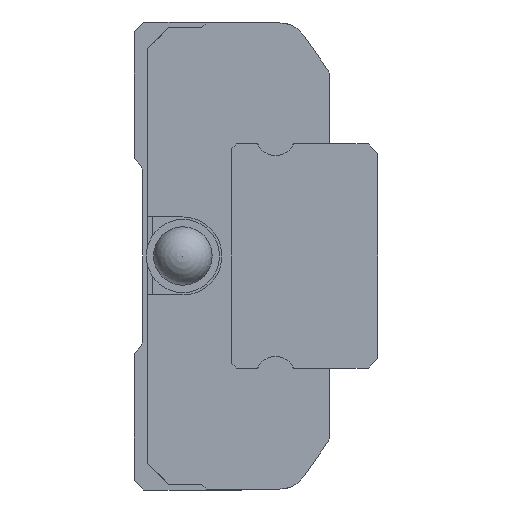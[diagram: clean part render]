
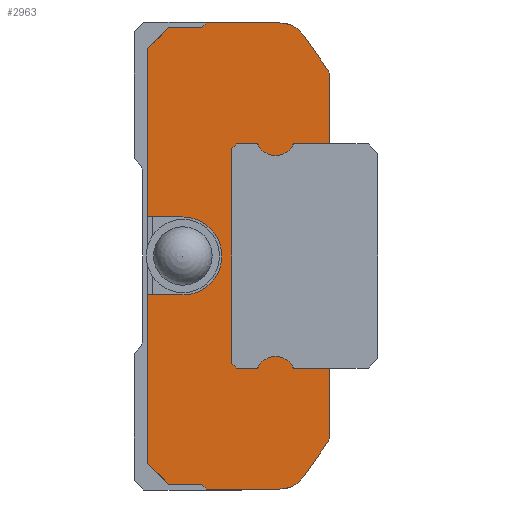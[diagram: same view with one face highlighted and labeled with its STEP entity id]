
A CAD part, left-side view. The second image highlights one B-rep face of the part: STEP entity #2963.
In plain terms, the highlighted planar face has unit normal (-1, 0, 0).
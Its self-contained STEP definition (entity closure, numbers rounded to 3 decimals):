
#81=CIRCLE('',#3203,4.);
#82=CIRCLE('',#3204,3.);
#83=CIRCLE('',#3205,1.);
#84=CIRCLE('',#3206,0.15);
#85=CIRCLE('',#3207,2.);
#86=CIRCLE('',#3208,0.15);
#87=CIRCLE('',#3209,0.15);
#88=CIRCLE('',#3210,2.);
#89=CIRCLE('',#3211,0.15);
#90=CIRCLE('',#3212,1.);
#91=CIRCLE('',#3213,3.);
#324=ORIENTED_EDGE('',*,*,#1100,.T.);
#325=ORIENTED_EDGE('',*,*,#1101,.T.);
#326=ORIENTED_EDGE('',*,*,#1102,.T.);
#327=ORIENTED_EDGE('',*,*,#1103,.F.);
#328=ORIENTED_EDGE('',*,*,#1104,.F.);
#329=ORIENTED_EDGE('',*,*,#1105,.F.);
#330=ORIENTED_EDGE('',*,*,#1106,.F.);
#331=ORIENTED_EDGE('',*,*,#1107,.F.);
#332=ORIENTED_EDGE('',*,*,#1108,.F.);
#333=ORIENTED_EDGE('',*,*,#1109,.F.);
#334=ORIENTED_EDGE('',*,*,#1110,.F.);
#335=ORIENTED_EDGE('',*,*,#1111,.F.);
#336=ORIENTED_EDGE('',*,*,#1112,.F.);
#337=ORIENTED_EDGE('',*,*,#1113,.T.);
#338=ORIENTED_EDGE('',*,*,#1114,.F.);
#339=ORIENTED_EDGE('',*,*,#1115,.T.);
#340=ORIENTED_EDGE('',*,*,#1116,.T.);
#341=ORIENTED_EDGE('',*,*,#1117,.T.);
#342=ORIENTED_EDGE('',*,*,#1118,.T.);
#343=ORIENTED_EDGE('',*,*,#1119,.T.);
#344=ORIENTED_EDGE('',*,*,#1120,.T.);
#345=ORIENTED_EDGE('',*,*,#1121,.T.);
#346=ORIENTED_EDGE('',*,*,#1122,.F.);
#347=ORIENTED_EDGE('',*,*,#1123,.T.);
#348=ORIENTED_EDGE('',*,*,#1124,.T.);
#349=ORIENTED_EDGE('',*,*,#1125,.F.);
#350=ORIENTED_EDGE('',*,*,#1126,.F.);
#351=ORIENTED_EDGE('',*,*,#1127,.F.);
#352=ORIENTED_EDGE('',*,*,#1128,.F.);
#353=ORIENTED_EDGE('',*,*,#1129,.F.);
#354=ORIENTED_EDGE('',*,*,#1130,.F.);
#355=ORIENTED_EDGE('',*,*,#1131,.F.);
#356=ORIENTED_EDGE('',*,*,#1132,.F.);
#357=ORIENTED_EDGE('',*,*,#1133,.F.);
#1100=EDGE_CURVE('',#1504,#1505,#1782,.T.);
#1101=EDGE_CURVE('',#1505,#1506,#81,.T.);
#1102=EDGE_CURVE('',#1506,#1507,#1783,.T.);
#1103=EDGE_CURVE('',#1508,#1507,#1784,.T.);
#1104=EDGE_CURVE('',#1509,#1508,#1785,.T.);
#1105=EDGE_CURVE('',#1510,#1509,#1786,.T.);
#1106=EDGE_CURVE('',#1511,#1510,#1787,.T.);
#1107=EDGE_CURVE('',#1512,#1511,#1788,.T.);
#1108=EDGE_CURVE('',#1513,#1512,#82,.T.);
#1109=EDGE_CURVE('',#1514,#1513,#1789,.T.);
#1110=EDGE_CURVE('',#1515,#1514,#83,.T.);
#1111=EDGE_CURVE('',#1516,#1515,#1790,.T.);
#1112=EDGE_CURVE('',#1517,#1516,#1791,.T.);
#1113=EDGE_CURVE('',#1517,#1518,#84,.T.);
#1114=EDGE_CURVE('',#1519,#1518,#85,.T.);
#1115=EDGE_CURVE('',#1519,#1520,#86,.T.);
#1116=EDGE_CURVE('',#1520,#1521,#1792,.T.);
#1117=EDGE_CURVE('',#1521,#1522,#1793,.T.);
#1118=EDGE_CURVE('',#1522,#1523,#1794,.T.);
#1119=EDGE_CURVE('',#1523,#1524,#1795,.T.);
#1120=EDGE_CURVE('',#1524,#1525,#1796,.T.);
#1121=EDGE_CURVE('',#1525,#1526,#87,.T.);
#1122=EDGE_CURVE('',#1527,#1526,#88,.T.);
#1123=EDGE_CURVE('',#1527,#1528,#89,.T.);
#1124=EDGE_CURVE('',#1528,#1529,#1797,.T.);
#1125=EDGE_CURVE('',#1530,#1529,#1798,.T.);
#1126=EDGE_CURVE('',#1531,#1530,#90,.T.);
#1127=EDGE_CURVE('',#1532,#1531,#1799,.T.);
#1128=EDGE_CURVE('',#1533,#1532,#91,.T.);
#1129=EDGE_CURVE('',#1534,#1533,#1800,.T.);
#1130=EDGE_CURVE('',#1535,#1534,#1801,.T.);
#1131=EDGE_CURVE('',#1536,#1535,#1802,.T.);
#1132=EDGE_CURVE('',#1537,#1536,#1803,.T.);
#1133=EDGE_CURVE('',#1504,#1537,#1804,.T.);
#1504=VERTEX_POINT('',#4443);
#1505=VERTEX_POINT('',#4444);
#1506=VERTEX_POINT('',#4446);
#1507=VERTEX_POINT('',#4448);
#1508=VERTEX_POINT('',#4450);
#1509=VERTEX_POINT('',#4452);
#1510=VERTEX_POINT('',#4454);
#1511=VERTEX_POINT('',#4456);
#1512=VERTEX_POINT('',#4458);
#1513=VERTEX_POINT('',#4460);
#1514=VERTEX_POINT('',#4462);
#1515=VERTEX_POINT('',#4464);
#1516=VERTEX_POINT('',#4466);
#1517=VERTEX_POINT('',#4468);
#1518=VERTEX_POINT('',#4470);
#1519=VERTEX_POINT('',#4472);
#1520=VERTEX_POINT('',#4474);
#1521=VERTEX_POINT('',#4476);
#1522=VERTEX_POINT('',#4478);
#1523=VERTEX_POINT('',#4480);
#1524=VERTEX_POINT('',#4482);
#1525=VERTEX_POINT('',#4484);
#1526=VERTEX_POINT('',#4486);
#1527=VERTEX_POINT('',#4488);
#1528=VERTEX_POINT('',#4490);
#1529=VERTEX_POINT('',#4492);
#1530=VERTEX_POINT('',#4494);
#1531=VERTEX_POINT('',#4496);
#1532=VERTEX_POINT('',#4498);
#1533=VERTEX_POINT('',#4500);
#1534=VERTEX_POINT('',#4502);
#1535=VERTEX_POINT('',#4504);
#1536=VERTEX_POINT('',#4506);
#1537=VERTEX_POINT('',#4508);
#1782=LINE('',#4442,#2100);
#1783=LINE('',#4447,#2101);
#1784=LINE('',#4449,#2102);
#1785=LINE('',#4451,#2103);
#1786=LINE('',#4453,#2104);
#1787=LINE('',#4455,#2105);
#1788=LINE('',#4457,#2106);
#1789=LINE('',#4461,#2107);
#1790=LINE('',#4465,#2108);
#1791=LINE('',#4467,#2109);
#1792=LINE('',#4475,#2110);
#1793=LINE('',#4477,#2111);
#1794=LINE('',#4479,#2112);
#1795=LINE('',#4481,#2113);
#1796=LINE('',#4483,#2114);
#1797=LINE('',#4491,#2115);
#1798=LINE('',#4493,#2116);
#1799=LINE('',#4497,#2117);
#1800=LINE('',#4501,#2118);
#1801=LINE('',#4503,#2119);
#1802=LINE('',#4505,#2120);
#1803=LINE('',#4507,#2121);
#1804=LINE('',#4509,#2122);
#2100=VECTOR('',#3579,1000.);
#2101=VECTOR('',#3582,1000.);
#2102=VECTOR('',#3583,1000.);
#2103=VECTOR('',#3584,1000.);
#2104=VECTOR('',#3585,1000.);
#2105=VECTOR('',#3586,1000.);
#2106=VECTOR('',#3587,1000.);
#2107=VECTOR('',#3590,1000.);
#2108=VECTOR('',#3593,1000.);
#2109=VECTOR('',#3594,1000.);
#2110=VECTOR('',#3601,1000.);
#2111=VECTOR('',#3602,1000.);
#2112=VECTOR('',#3603,1000.);
#2113=VECTOR('',#3604,1000.);
#2114=VECTOR('',#3605,1000.);
#2115=VECTOR('',#3612,1000.);
#2116=VECTOR('',#3613,1000.);
#2117=VECTOR('',#3616,1000.);
#2118=VECTOR('',#3619,1000.);
#2119=VECTOR('',#3620,1000.);
#2120=VECTOR('',#3621,1000.);
#2121=VECTOR('',#3622,1000.);
#2122=VECTOR('',#3623,1000.);
#2432=EDGE_LOOP('',(#324,#325,#326,#327,#328,#329,#330,#331,#332,#333,#334,
#335,#336,#337,#338,#339,#340,#341,#342,#343,#344,#345,#346,#347,#348,#349,
#350,#351,#352,#353,#354,#355,#356,#357));
#2646=FACE_BOUND('',#2432,.T.);
#2830=PLANE('',#3202);
#2963=ADVANCED_FACE('',(#2646),#2830,.F.);
#3202=AXIS2_PLACEMENT_3D('',#4441,#3577,#3578);
#3203=AXIS2_PLACEMENT_3D('',#4445,#3580,#3581);
#3204=AXIS2_PLACEMENT_3D('',#4459,#3588,#3589);
#3205=AXIS2_PLACEMENT_3D('',#4463,#3591,#3592);
#3206=AXIS2_PLACEMENT_3D('',#4469,#3595,#3596);
#3207=AXIS2_PLACEMENT_3D('',#4471,#3597,#3598);
#3208=AXIS2_PLACEMENT_3D('',#4473,#3599,#3600);
#3209=AXIS2_PLACEMENT_3D('',#4485,#3606,#3607);
#3210=AXIS2_PLACEMENT_3D('',#4487,#3608,#3609);
#3211=AXIS2_PLACEMENT_3D('',#4489,#3610,#3611);
#3212=AXIS2_PLACEMENT_3D('',#4495,#3614,#3615);
#3213=AXIS2_PLACEMENT_3D('',#4499,#3617,#3618);
#3577=DIRECTION('',(1.,0.,0.));
#3578=DIRECTION('',(0.,0.,-1.));
#3579=DIRECTION('',(0.,-1.,0.));
#3580=DIRECTION('',(1.,0.,0.));
#3581=DIRECTION('',(0.,0.,-1.));
#3582=DIRECTION('',(0.,1.,0.));
#3583=DIRECTION('',(0.,0.,1.));
#3584=DIRECTION('',(0.,0.707,0.707));
#3585=DIRECTION('',(0.,1.,0.));
#3586=DIRECTION('',(0.,0.707,0.707));
#3587=DIRECTION('',(0.,1.,0.));
#3588=DIRECTION('',(1.,0.,0.));
#3589=DIRECTION('',(0.,0.,-1.));
#3590=DIRECTION('',(0.,0.573,-0.819));
#3591=DIRECTION('',(1.,0.,0.));
#3592=DIRECTION('',(0.,0.,-1.));
#3593=DIRECTION('',(0.,0.,-1.));
#3594=DIRECTION('',(0.,-1.,0.));
#3595=DIRECTION('',(1.,0.,0.));
#3596=DIRECTION('',(0.,0.,-1.));
#3597=DIRECTION('',(1.,0.,0.));
#3598=DIRECTION('',(0.,0.,-1.));
#3599=DIRECTION('',(1.,0.,0.));
#3600=DIRECTION('',(0.,0.,-1.));
#3601=DIRECTION('',(0.,1.,0.));
#3602=DIRECTION('',(0.,0.707,0.707));
#3603=DIRECTION('',(0.,0.,1.));
#3604=DIRECTION('',(0.,-0.707,0.707));
#3605=DIRECTION('',(0.,-1.,0.));
#3606=DIRECTION('',(1.,0.,0.));
#3607=DIRECTION('',(0.,0.,-1.));
#3608=DIRECTION('',(1.,0.,0.));
#3609=DIRECTION('',(0.,0.,-1.));
#3610=DIRECTION('',(1.,0.,0.));
#3611=DIRECTION('',(0.,0.,-1.));
#3612=DIRECTION('',(0.,-1.,0.));
#3613=DIRECTION('',(0.,0.,-1.));
#3614=DIRECTION('',(1.,0.,0.));
#3615=DIRECTION('',(0.,0.,-1.));
#3616=DIRECTION('',(0.,-0.573,-0.819));
#3617=DIRECTION('',(1.,0.,0.));
#3618=DIRECTION('',(0.,0.,-1.));
#3619=DIRECTION('',(0.,-1.,0.));
#3620=DIRECTION('',(0.,-0.707,0.707));
#3621=DIRECTION('',(0.,-1.,0.));
#3622=DIRECTION('',(0.,-0.707,0.707));
#3623=DIRECTION('',(0.,0.,1.));
#4441=CARTESIAN_POINT('',(-38.5,5.062,20.9));
#4442=CARTESIAN_POINT('',(-38.5,20.,4.));
#4443=CARTESIAN_POINT('',(-38.5,18.6,4.));
#4444=CARTESIAN_POINT('',(-38.5,15.,4.));
#4445=CARTESIAN_POINT('',(-38.5,15.,0.));
#4446=CARTESIAN_POINT('',(-38.5,15.,-4.));
#4447=CARTESIAN_POINT('',(-38.5,15.,-4.));
#4448=CARTESIAN_POINT('',(-38.5,18.6,-4.));
#4449=CARTESIAN_POINT('',(-38.5,18.6,-21.3));
#4450=CARTESIAN_POINT('',(-38.5,18.6,-21.3));
#4451=CARTESIAN_POINT('',(-38.5,16.5,-23.4));
#4452=CARTESIAN_POINT('',(-38.5,16.5,-23.4));
#4453=CARTESIAN_POINT('',(-38.5,13.1,-23.4));
#4454=CARTESIAN_POINT('',(-38.5,13.1,-23.4));
#4455=CARTESIAN_POINT('',(-38.5,12.6,-23.9));
#4456=CARTESIAN_POINT('',(-38.5,12.6,-23.9));
#4457=CARTESIAN_POINT('',(-38.5,5.062,-23.9));
#4458=CARTESIAN_POINT('',(-38.5,5.062,-23.9));
#4459=CARTESIAN_POINT('',(-38.5,5.062,-20.9));
#4460=CARTESIAN_POINT('',(-38.5,2.604,-22.62));
#4461=CARTESIAN_POINT('',(-38.5,0.181,-19.158));
#4462=CARTESIAN_POINT('',(-38.5,0.181,-19.158));
#4463=CARTESIAN_POINT('',(-38.5,1.,-18.585));
#4464=CARTESIAN_POINT('',(-38.5,0.,-18.585));
#4465=CARTESIAN_POINT('',(-38.5,0.,18.585));
#4466=CARTESIAN_POINT('',(-38.5,0.,-11.5));
#4467=CARTESIAN_POINT('',(-38.5,5.062,-11.5));
#4468=CARTESIAN_POINT('',(-38.5,3.571,-11.5));
#4469=CARTESIAN_POINT('',(-38.5,3.571,-11.35));
#4470=CARTESIAN_POINT('',(-38.5,3.706,-11.416));
#4471=CARTESIAN_POINT('',(-38.5,5.5,-12.3));
#4472=CARTESIAN_POINT('',(-38.5,7.294,-11.416));
#4473=CARTESIAN_POINT('',(-38.5,7.429,-11.35));
#4474=CARTESIAN_POINT('',(-38.5,7.429,-11.5));
#4475=CARTESIAN_POINT('',(-38.5,7.429,-11.5));
#4476=CARTESIAN_POINT('',(-38.5,9.5,-11.5));
#4477=CARTESIAN_POINT('',(-38.5,9.5,-11.5));
#4478=CARTESIAN_POINT('',(-38.5,10.,-11.));
#4479=CARTESIAN_POINT('',(-38.5,10.,-11.));
#4480=CARTESIAN_POINT('',(-38.5,10.,11.));
#4481=CARTESIAN_POINT('',(-38.5,10.,11.));
#4482=CARTESIAN_POINT('',(-38.5,9.5,11.5));
#4483=CARTESIAN_POINT('',(-38.5,9.5,11.5));
#4484=CARTESIAN_POINT('',(-38.5,7.429,11.5));
#4485=CARTESIAN_POINT('',(-38.5,7.429,11.35));
#4486=CARTESIAN_POINT('',(-38.5,7.294,11.416));
#4487=CARTESIAN_POINT('',(-38.5,5.5,12.3));
#4488=CARTESIAN_POINT('',(-38.5,3.706,11.416));
#4489=CARTESIAN_POINT('',(-38.5,3.571,11.35));
#4490=CARTESIAN_POINT('',(-38.5,3.571,11.5));
#4491=CARTESIAN_POINT('',(-38.5,3.571,11.5));
#4492=CARTESIAN_POINT('',(-38.5,0.,11.5));
#4493=CARTESIAN_POINT('',(-38.5,0.,18.585));
#4494=CARTESIAN_POINT('',(-38.5,0.,18.585));
#4495=CARTESIAN_POINT('',(-38.5,1.,18.585));
#4496=CARTESIAN_POINT('',(-38.5,0.181,19.158));
#4497=CARTESIAN_POINT('',(-38.5,2.604,22.62));
#4498=CARTESIAN_POINT('',(-38.5,2.604,22.62));
#4499=CARTESIAN_POINT('',(-38.5,5.062,20.9));
#4500=CARTESIAN_POINT('',(-38.5,5.062,23.9));
#4501=CARTESIAN_POINT('',(-38.5,12.6,23.9));
#4502=CARTESIAN_POINT('',(-38.5,12.6,23.9));
#4503=CARTESIAN_POINT('',(-38.5,13.1,23.4));
#4504=CARTESIAN_POINT('',(-38.5,13.1,23.4));
#4505=CARTESIAN_POINT('',(-38.5,16.5,23.4));
#4506=CARTESIAN_POINT('',(-38.5,16.5,23.4));
#4507=CARTESIAN_POINT('',(-38.5,18.6,21.3));
#4508=CARTESIAN_POINT('',(-38.5,18.6,21.3));
#4509=CARTESIAN_POINT('',(-38.5,18.6,-21.3));
